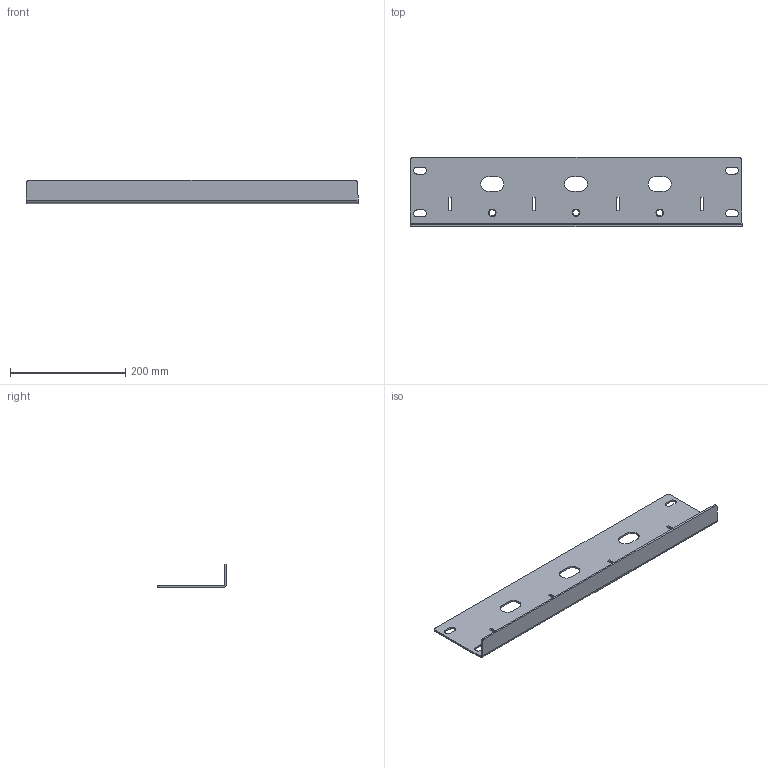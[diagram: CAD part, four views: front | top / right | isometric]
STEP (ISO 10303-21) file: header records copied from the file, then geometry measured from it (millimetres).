
FILE_DESCRIPTION (( 'STEP AP203' ), '1' );
FILE_NAME ('ORW-72.24.004 Ïåðåêëàäèíà.STEP', '2025-10-13T13:18:11', ( 'Àíäðåé' ), ( '' ), 'SwSTEP 2.0', 'SolidWorks 2025', '' );
FILE_SCHEMA (( 'CONFIG_CONTROL_DESIGN' ));
Length unit declared in the file: millimetre
Products named in the file (1): ORW-72.24.004 Перекладина
Bounding box: 575 x 120 x 40 mm (x, y, z)
Volume: 254558.8 mm3; surface area: 176691.3 mm2
Topology: 1 solids, 1 shells, 68 faces, 187 edges, 121 vertices
Faces by surface type: plane 42, cylinder 23, cone 3
Full cylindrical faces by diameter (mm): 10.9 x3
Entity records: 2253 total; most frequent: CARTESIAN_POINT 371, DIRECTION 368, ORIENTED_EDGE 362, EDGE_CURVE 181, VECTOR 132, LINE 132, VERTEX_POINT 121, AXIS2_PLACEMENT_3D 118
